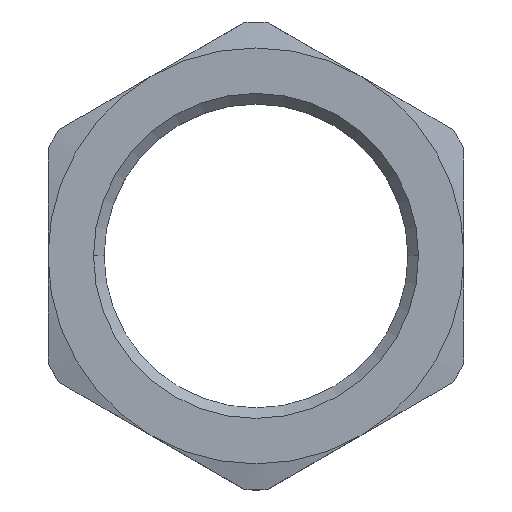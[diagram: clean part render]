
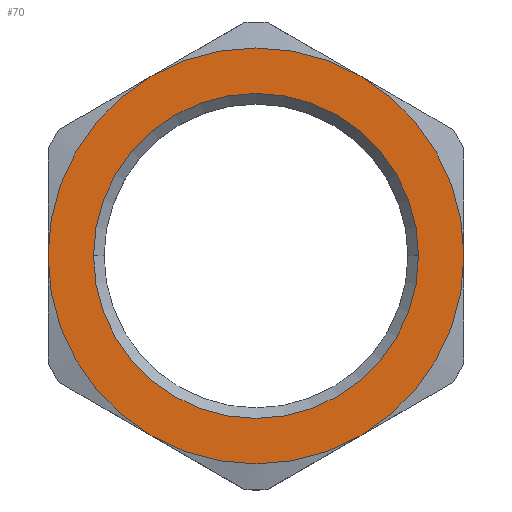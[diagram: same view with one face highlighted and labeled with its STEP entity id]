
A CAD part, top view. The second image highlights one B-rep face of the part: STEP entity #70.
In plain terms, the highlighted planar face has unit normal (0, 0, 1).
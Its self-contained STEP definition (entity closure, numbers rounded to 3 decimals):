
#5 = VERTEX_POINT ( 'NONE', #785 ) ;
#30 = EDGE_LOOP ( 'NONE', ( #71, #74, #66, #102, #55, #115 ) ) ;
#44 = EDGE_CURVE ( 'NONE', #68, #45, #801, .T. ) ;
#45 = VERTEX_POINT ( 'NONE', #796 ) ;
#46 = VERTEX_POINT ( 'NONE', #795 ) ;
#55 = ORIENTED_EDGE ( 'NONE', *, *, #56, .T. ) ;
#56 = EDGE_CURVE ( 'NONE', #45, #46, #856, .T. ) ;
#66 = ORIENTED_EDGE ( 'NONE', *, *, #67, .T. ) ;
#67 = EDGE_CURVE ( 'NONE', #76, #68, #874, .T. ) ;
#68 = VERTEX_POINT ( 'NONE', #869 ) ;
#70 = ADVANCED_FACE ( 'NONE', ( #868, #867 ), #866, .F. ) ;
#71 = ORIENTED_EDGE ( 'NONE', *, *, #72, .T. ) ;
#72 = EDGE_CURVE ( 'NONE', #5, #73, #759, .T. ) ;
#73 = VERTEX_POINT ( 'NONE', #755 ) ;
#74 = ORIENTED_EDGE ( 'NONE', *, *, #75, .T. ) ;
#75 = EDGE_CURVE ( 'NONE', #73, #76, #754, .T. ) ;
#76 = VERTEX_POINT ( 'NONE', #780 ) ;
#97 = EDGE_CURVE ( 'NONE', #429, #428, #1038, .T. ) ;
#102 = ORIENTED_EDGE ( 'NONE', *, *, #44, .T. ) ;
#112 = ORIENTED_EDGE ( 'NONE', *, *, #97, .F. ) ;
#115 = ORIENTED_EDGE ( 'NONE', *, *, #116, .T. ) ;
#116 = EDGE_CURVE ( 'NONE', #46, #5, #1061, .T. ) ;
#117 = ORIENTED_EDGE ( 'NONE', *, *, #324, .F. ) ;
#154 = EDGE_LOOP ( 'NONE', ( #112, #117 ) ) ;
#324 = EDGE_CURVE ( 'NONE', #428, #429, #1377, .T. ) ;
#428 = VERTEX_POINT ( 'NONE', #1458 ) ;
#429 = VERTEX_POINT ( 'NONE', #1457 ) ;
#751 = DIRECTION ( 'NONE',  ( 0., 0., 1. ) ) ;
#752 = CARTESIAN_POINT ( 'NONE',  ( 0., 0., 0. ) ) ;
#753 = AXIS2_PLACEMENT_3D ( 'NONE', #752, #751, #781 ) ;
#754 = CIRCLE ( 'NONE', #753, 16. ) ;
#755 = CARTESIAN_POINT ( 'NONE',  ( 8., 13.856, 0. ) ) ;
#756 = DIRECTION ( 'NONE',  ( 1., 0., 0. ) ) ;
#757 = DIRECTION ( 'NONE',  ( 0., 0., 1. ) ) ;
#758 = AXIS2_PLACEMENT_3D ( 'NONE', #865, #757, #756 ) ;
#759 = CIRCLE ( 'NONE', #758, 16. ) ;
#760 = DIRECTION ( 'NONE',  ( -1., 0., 0. ) ) ;
#761 = DIRECTION ( 'NONE',  ( 0., 0., -1. ) ) ;
#762 = CARTESIAN_POINT ( 'NONE',  ( 0., 0., 0. ) ) ;
#780 = CARTESIAN_POINT ( 'NONE',  ( -8., 13.856, 0. ) ) ;
#781 = DIRECTION ( 'NONE',  ( 1., 0., 0. ) ) ;
#785 = CARTESIAN_POINT ( 'NONE',  ( 16., 0., 0. ) ) ;
#795 = CARTESIAN_POINT ( 'NONE',  ( 8., -13.856, 0. ) ) ;
#796 = CARTESIAN_POINT ( 'NONE',  ( -8., -13.856, 0. ) ) ;
#797 = DIRECTION ( 'NONE',  ( 1., 0., 0. ) ) ;
#798 = DIRECTION ( 'NONE',  ( 0., 0., 1. ) ) ;
#799 = CARTESIAN_POINT ( 'NONE',  ( 0., 0., 0. ) ) ;
#800 = AXIS2_PLACEMENT_3D ( 'NONE', #799, #798, #797 ) ;
#801 = CIRCLE ( 'NONE', #800, 16. ) ;
#852 = DIRECTION ( 'NONE',  ( 1., 0., 0. ) ) ;
#853 = DIRECTION ( 'NONE',  ( 0., 0., 1. ) ) ;
#854 = CARTESIAN_POINT ( 'NONE',  ( 0., 0., 0. ) ) ;
#855 = AXIS2_PLACEMENT_3D ( 'NONE', #854, #853, #852 ) ;
#856 = CIRCLE ( 'NONE', #855, 16. ) ;
#864 = AXIS2_PLACEMENT_3D ( 'NONE', #762, #761, #760 ) ;
#865 = CARTESIAN_POINT ( 'NONE',  ( 0., 0., 0. ) ) ;
#866 = PLANE ( 'NONE',  #864 ) ;
#867 = FACE_BOUND ( 'NONE', #154, .T. ) ;
#868 = FACE_OUTER_BOUND ( 'NONE', #30, .T. ) ;
#869 = CARTESIAN_POINT ( 'NONE',  ( -16., 0., 0. ) ) ;
#870 = DIRECTION ( 'NONE',  ( 1., 0., 0. ) ) ;
#871 = DIRECTION ( 'NONE',  ( 0., 0., 1. ) ) ;
#872 = CARTESIAN_POINT ( 'NONE',  ( 0., 0., 0. ) ) ;
#873 = AXIS2_PLACEMENT_3D ( 'NONE', #872, #871, #870 ) ;
#874 = CIRCLE ( 'NONE', #873, 16. ) ;
#995 = DIRECTION ( 'NONE',  ( 1., 0., 0. ) ) ;
#996 = DIRECTION ( 'NONE',  ( 0., 0., 1. ) ) ;
#997 = CARTESIAN_POINT ( 'NONE',  ( 0., 0., 0. ) ) ;
#998 = AXIS2_PLACEMENT_3D ( 'NONE', #997, #996, #995 ) ;
#1034 = DIRECTION ( 'NONE',  ( 1., 0., 0. ) ) ;
#1035 = DIRECTION ( 'NONE',  ( 0., 0., 1. ) ) ;
#1036 = CARTESIAN_POINT ( 'NONE',  ( 0., 0., 0. ) ) ;
#1037 = AXIS2_PLACEMENT_3D ( 'NONE', #1036, #1035, #1034 ) ;
#1038 = CIRCLE ( 'NONE', #1037, 12.5 ) ;
#1061 = CIRCLE ( 'NONE', #998, 16. ) ;
#1377 = CIRCLE ( 'NONE', #1393, 12.5 ) ;
#1390 = DIRECTION ( 'NONE',  ( 1., 0., 0. ) ) ;
#1391 = DIRECTION ( 'NONE',  ( 0., 0., 1. ) ) ;
#1392 = CARTESIAN_POINT ( 'NONE',  ( 0., 0., 0. ) ) ;
#1393 = AXIS2_PLACEMENT_3D ( 'NONE', #1392, #1391, #1390 ) ;
#1457 = CARTESIAN_POINT ( 'NONE',  ( 12.5, 0., 0. ) ) ;
#1458 = CARTESIAN_POINT ( 'NONE',  ( -12.5, 0., 0. ) ) ;
